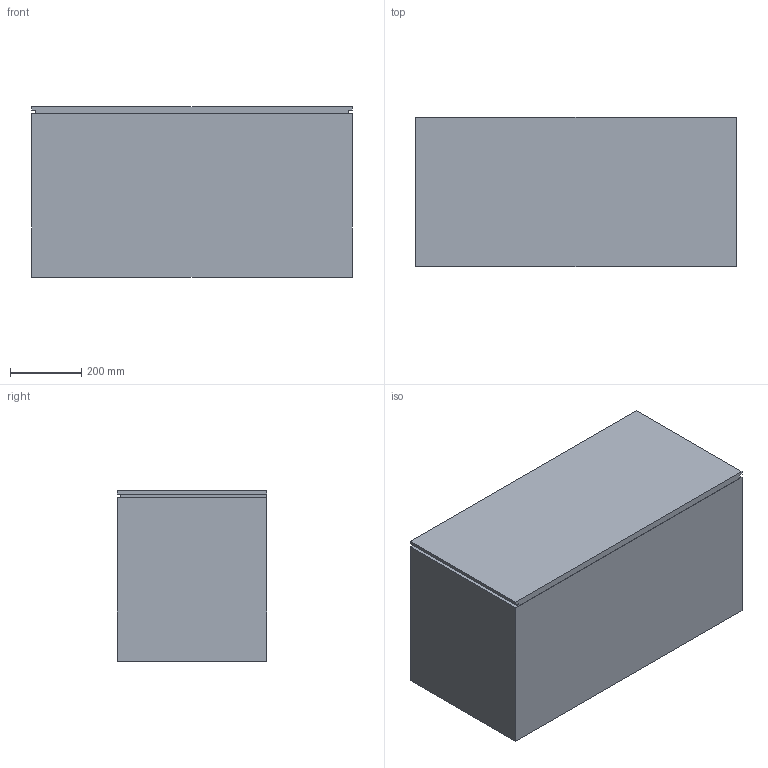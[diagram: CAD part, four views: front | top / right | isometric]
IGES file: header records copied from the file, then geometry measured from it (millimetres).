
Start section: SolidWorks IGES file using NURBS representation for surfaces
Global section: file name: G:\VICCARBE\PRODUCTOS\20-DO IT\04-MODELADOS (PLANOS)\SOLIDWORKS\Contenedores\IGES\VICCARBE_DO02.IGS; native system: SolidWorks 2009; preprocessor: SolidWorks 2009; author: RUBEN; date: 111102.121429; units: millimetre
Bounding box: 900 x 420 x 479 mm (x, y, z)
Surface area: 3867160 mm2 (no closed solid volume)
Topology: 0 solids, 0 shells, 21 faces, 96 edges, 96 vertices
Faces by surface type: bspline 21
